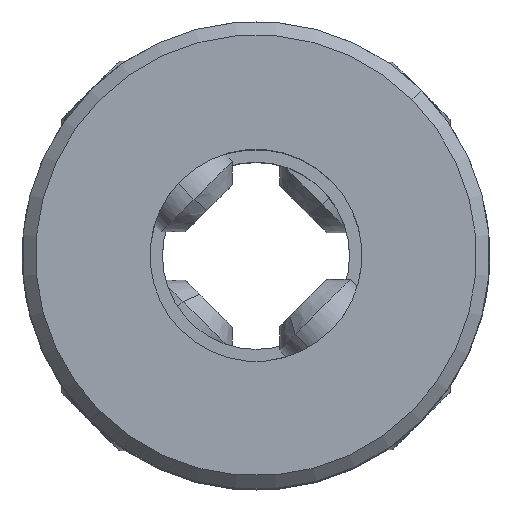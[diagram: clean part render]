
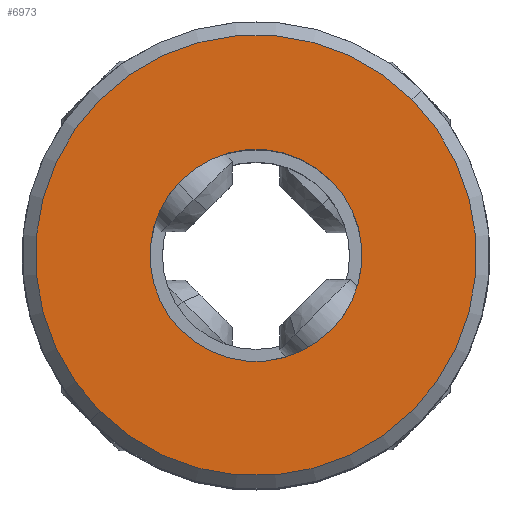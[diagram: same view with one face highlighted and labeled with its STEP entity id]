
A CAD part, top view. The second image highlights one B-rep face of the part: STEP entity #6973.
In plain terms, the highlighted planar face has unit normal (0, 0, 1).
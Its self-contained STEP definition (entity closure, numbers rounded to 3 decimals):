
#1153 = VERTEX_POINT ( 'NONE', #10848 ) ;
#1554 = DIRECTION ( 'NONE',  ( -1., 0., 0. ) ) ;
#1576 = EDGE_CURVE ( 'NONE', #1153, #8045, #3391, .T. ) ;
#1587 = DIRECTION ( 'NONE',  ( -0.707, -0.707, 0. ) ) ;
#2008 = CARTESIAN_POINT ( 'NONE',  ( 0., 0., 11. ) ) ;
#2696 = DIRECTION ( 'NONE',  ( 0., 0., -1. ) ) ;
#3015 = AXIS2_PLACEMENT_3D ( 'NONE', #8252, #14157, #1587 ) ;
#3391 = CIRCLE ( 'NONE', #5071, 6.6 ) ;
#3532 = AXIS2_PLACEMENT_3D ( 'NONE', #2008, #6584, #11958 ) ;
#3658 = CIRCLE ( 'NONE', #7509, 6.6 ) ;
#3677 = PLANE ( 'NONE',  #14159 ) ;
#3755 = FACE_BOUND ( 'NONE', #7723, .T. ) ;
#4327 = DIRECTION ( 'NONE',  ( 0., 0., 1. ) ) ;
#4401 = EDGE_CURVE ( 'NONE', #8045, #1153, #3658, .T. ) ;
#5071 = AXIS2_PLACEMENT_3D ( 'NONE', #9640, #8380, #14141 ) ;
#6022 = EDGE_LOOP ( 'NONE', ( #14090, #12316 ) ) ;
#6156 = EDGE_CURVE ( 'NONE', #9776, #6169, #7551, .T. ) ;
#6169 = VERTEX_POINT ( 'NONE', #11621 ) ;
#6572 = CARTESIAN_POINT ( 'NONE',  ( 0., 0., 11. ) ) ;
#6584 = DIRECTION ( 'NONE',  ( 0., 0., -1. ) ) ;
#6973 = ADVANCED_FACE ( 'NONE', ( #3755, #8290 ), #3677, .F. ) ;
#7358 = CIRCLE ( 'NONE', #3532, 3.175 ) ;
#7509 = AXIS2_PLACEMENT_3D ( 'NONE', #6572, #4327, #7680 ) ;
#7551 = CIRCLE ( 'NONE', #3015, 3.175 ) ;
#7680 = DIRECTION ( 'NONE',  ( -0.707, -0.707, 0. ) ) ;
#7723 = EDGE_LOOP ( 'NONE', ( #14143, #7861 ) ) ;
#7861 = ORIENTED_EDGE ( 'NONE', *, *, #8057, .T. ) ;
#8045 = VERTEX_POINT ( 'NONE', #12160 ) ;
#8057 = EDGE_CURVE ( 'NONE', #6169, #9776, #7358, .T. ) ;
#8252 = CARTESIAN_POINT ( 'NONE',  ( 0., 0., 11. ) ) ;
#8290 = FACE_OUTER_BOUND ( 'NONE', #6022, .T. ) ;
#8380 = DIRECTION ( 'NONE',  ( 0., 0., 1. ) ) ;
#9640 = CARTESIAN_POINT ( 'NONE',  ( 0., 0., 11. ) ) ;
#9776 = VERTEX_POINT ( 'NONE', #11617 ) ;
#10848 = CARTESIAN_POINT ( 'NONE',  ( 4.667, 4.667, 11. ) ) ;
#11617 = CARTESIAN_POINT ( 'NONE',  ( -2.245, -2.245, 11. ) ) ;
#11621 = CARTESIAN_POINT ( 'NONE',  ( 2.245, 2.245, 11. ) ) ;
#11736 = CARTESIAN_POINT ( 'NONE',  ( 0., 0., 11. ) ) ;
#11958 = DIRECTION ( 'NONE',  ( -0.707, -0.707, 0. ) ) ;
#12160 = CARTESIAN_POINT ( 'NONE',  ( -4.667, -4.667, 11. ) ) ;
#12316 = ORIENTED_EDGE ( 'NONE', *, *, #1576, .T. ) ;
#14090 = ORIENTED_EDGE ( 'NONE', *, *, #4401, .T. ) ;
#14141 = DIRECTION ( 'NONE',  ( -0.707, -0.707, 0. ) ) ;
#14143 = ORIENTED_EDGE ( 'NONE', *, *, #6156, .T. ) ;
#14157 = DIRECTION ( 'NONE',  ( 0., 0., -1. ) ) ;
#14159 = AXIS2_PLACEMENT_3D ( 'NONE', #11736, #2696, #1554 ) ;
